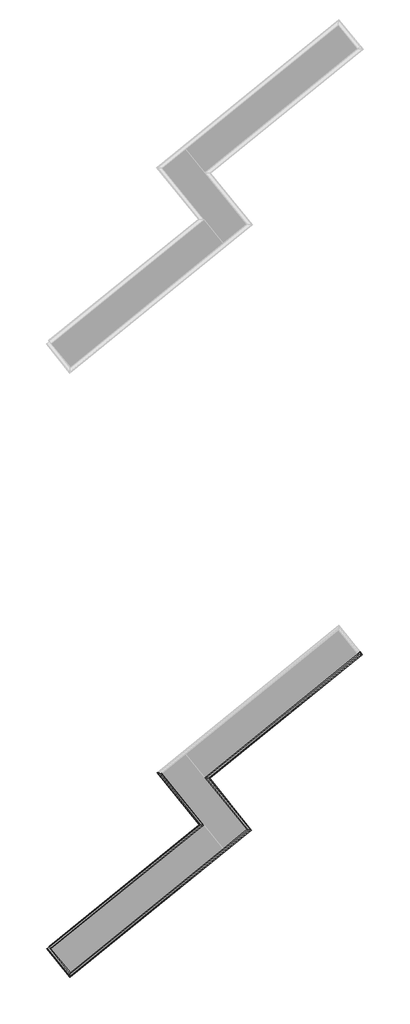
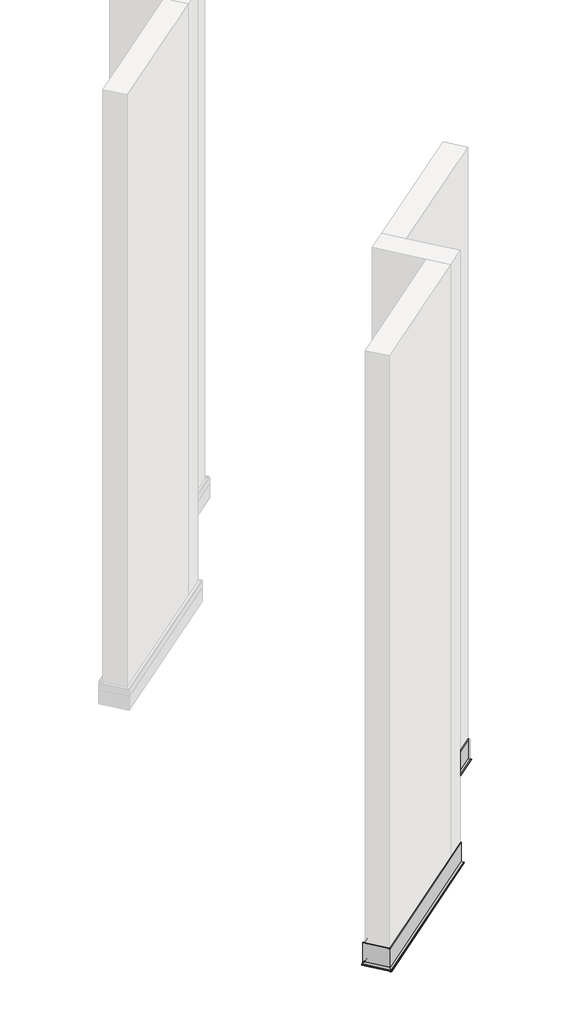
# One storey, part 4 of 21: 5 proxies.
"""IFC4 building model written with IfcOpenShell, lengths in millimetres."""

from ifc_helpers import new_model, si_unit, frame, origin, place, context, project, spatial, polyline, circle_curve, ellipse_curve, element, save
from ifc_brep_helpers import plane_surface, cylinder_surface, revolved_surface, advanced_brep

model = new_model("IFC4")

# Units and contexts
model_context = context("Model", 3, world=origin())
ifc_project = project(units=[si_unit("LENGTHUNIT", "METRE", prefix="MILLI")], contexts=[model_context])

# Site, building, storey
site = spatial("IfcSite", under=ifc_project)
building = spatial("IfcBuilding", under=site)
storey = spatial("IfcBuildingStorey", under=building, Name="Izofleks 2D View", Elevation=0.0)

# Proxies
placement = place(None, origin())
element("IfcBuildingElementProxy", 1, Name="Wall Sweeps", at=placement, inside=storey, context=model_context, shape_type="AdvancedBrep", body=[
    advanced_brep(
    [(10104.8993411, -9175.4264941, 1.1547005), (10103.5267385, -9175.2822278, 2.5773503), (10099.3073394, -9174.8387511, 4.3094011), (10092.2750076, -9174.0996232, 12.9696551), (10092.2750076, -9174.0996232, 98.5), (10088.4775485, -9173.7004942, 97.6), (10089.4620749, -9173.8039721, 95.5), (10089.4620749, -9173.8039721, 6.350853), (10100.7138058, -9174.9865767, 1.7320508), (10101.9593978, -9175.1174937, 0.6666667), (10103.3976168, -9175.2686566, 0.0031865), (10602.4996571, -8757.0514856, 1.1547005), (10601.6698761, -8757.7234289, 0.0031865), (10600.8751852, -8758.366957, 0.6666667), (10600.1869307, -8758.9242945, 1.7320508), (10593.969763, -8763.9588576, 6.350853), (10593.969763, -8763.9588576, 95.5), (10593.4257608, -8764.3993819, 97.6), (10595.5240549, -8762.7002168, 98.5), (10595.5240549, -8762.7002168, 12.9696551), (10599.4097847, -8759.5536149, 4.3094011), (10601.7412226, -8757.6656537, 2.5773503), (10610.044216, -8766.36824, 1.1547005), (10608.5424917, -8766.2104024, 0.0031865), (10607.1042727, -8766.0592395, 0.6666667), (10605.8586807, -8765.9283225, 1.7320508), (10594.6069499, -8764.7457179, 6.350853), (10594.6069499, -8764.7457179, 95.5), (10593.6224234, -8764.64224, 97.6), (10597.4198826, -8765.0413691, 98.5), (10597.4198826, -8765.0413691, 12.9696551), (10604.4522144, -8765.7804969, 4.3094011), (10608.6716134, -8766.2239736, 2.5773503)],
    [
        (0, 1, ellipse_curve(frame((10102.1202721, -9175.1344022, 0.8452995), z_axis=(-0.10452846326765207, -0.9945218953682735, 0.0), x_axis=(0.9945218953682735, -0.1045284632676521, 0.0)), 2.8284271, 2.0)),
        (1, 2),
        (2, 3, ellipse_curve(frame((10106.3396712, -9175.5778789, 12.9696551), z_axis=(0.10452846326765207, 0.9945218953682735, 0.0), x_axis=(-0.9945218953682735, 0.10452846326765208, 0.0)), 14.1421356, 10.0)),
        (3, 4),
        (4, 5, ellipse_curve(frame((10090.1653081, -9173.8778849, 98.5), z_axis=(-0.10452846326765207, -0.9945218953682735, 0.0), x_axis=(0.9945218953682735, -0.1045284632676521, 0.0)), 2.1213203, 1.5)),
        (5, 6, ellipse_curve(frame((10084.5394427, -9173.2865826, 95.5), z_axis=(0.10452846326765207, 0.9945218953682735, 0.0), x_axis=(-0.9945218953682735, 0.1045284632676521, 0.0)), 4.9497475, 3.5)),
        (6, 7),
        (7, 8),
        (8, 9, ellipse_curve(frame((10099.3073394, -9174.8387511, 0.0), z_axis=(0.10452846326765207, 0.9945218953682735, 0.0), x_axis=(-0.9945218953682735, 0.1045284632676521, 0.0)), 2.8284271, 2.0)),
        (9, 10, ellipse_curve(frame((10103.285427, -9175.2568649, 1.0), z_axis=(-0.10452846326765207, -0.9945218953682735, 0.0), x_axis=(0.9945218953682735, -0.1045284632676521, 0.0)), 1.4142136, 1.0)),
        (10, 0, ellipse_curve(frame((10103.5098066, -9175.2804482, 1.0), z_axis=(-0.10452846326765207, -0.9945218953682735, 0.0), x_axis=(0.9945218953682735, -0.1045284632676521, 0.0)), 1.4142136, 1.0)),
        (11, 12, circle_curve(frame((10601.7318669, -8757.6732298, 1.0), z_axis=(-0.6293203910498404, 0.7771459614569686, 0.0), x_axis=(1.0602152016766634e-12, 0.0, -1.0)), 1.0)),
        (12, 13, circle_curve(frame((10601.6078854, -8757.773628, 1.0), z_axis=(-0.6293203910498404, 0.7771459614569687, 0.0), x_axis=(-0.7327002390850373, -0.5933289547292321, -0.33333333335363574)), 1.0)),
        (13, 14, circle_curve(frame((10599.4097847, -8759.5536149, 0.0), z_axis=(0.6293203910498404, -0.7771459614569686, 0.0), x_axis=(0.3885729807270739, 0.3146601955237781, 0.8660254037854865)), 2.0)),
        (14, 15),
        (15, 16),
        (16, 17, circle_curve(frame((10591.2497521, -8766.161479, 95.5), z_axis=(0.6293203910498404, -0.7771459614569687, 0.0), x_axis=(0.6217167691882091, 0.503456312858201, 0.5999999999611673)), 3.5)),
        (17, 18, circle_curve(frame((10594.358336, -8763.6441974, 98.5), z_axis=(-0.6293203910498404, 0.7771459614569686, 0.0), x_axis=(0.7771459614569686, 0.6293203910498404, 0.0)), 1.5)),
        (18, 19),
        (19, 20, circle_curve(frame((10603.2955145, -8756.4070129, 12.9696551), z_axis=(0.6293203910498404, -0.7771459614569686, 0.0), x_axis=(-0.3885729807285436, -0.31466019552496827, -0.8660254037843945)), 10.0)),
        (20, 21),
        (21, 11, circle_curve(frame((10600.9640766, -8758.2949741, 0.8452995), z_axis=(-0.6293203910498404, 0.7771459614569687, 0.0), x_axis=(0.7677902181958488, 0.6217442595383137, 0.15470053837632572)), 2.0)),
        (11, 22),
        (22, 23, ellipse_curve(frame((10608.6546815, -8766.222194, 1.0), z_axis=(0.10452846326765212, 0.9945218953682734, 0.0), x_axis=(-0.9945218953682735, 0.10452846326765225, 0.0)), 1.4142136, 1.0)),
        (23, 12),
        (23, 24, ellipse_curve(frame((10608.4303019, -8766.1986108, 1.0), z_axis=(0.1045284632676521, 0.9945218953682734, 0.0), x_axis=(-0.9945218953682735, 0.10452846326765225, 0.0)), 1.4142136, 1.0)),
        (24, 13),
        (24, 25, ellipse_curve(frame((10604.4522144, -8765.7804969, 0.0), z_axis=(-0.10452846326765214, -0.9945218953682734, 0.0), x_axis=(0.9945218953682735, -0.10452846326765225, 0.0)), 2.8284271, 2.0)),
        (25, 14),
        (25, 26),
        (26, 15),
        (26, 27),
        (27, 16),
        (27, 28, ellipse_curve(frame((10589.6843176, -8764.2283284, 95.5), z_axis=(-0.10452846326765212, -0.9945218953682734, 0.0), x_axis=(0.9945218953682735, -0.10452846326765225, 0.0)), 4.9497475, 3.5)),
        (28, 17),
        (28, 29, ellipse_curve(frame((10595.3101831, -8764.8196307, 98.5), z_axis=(0.10452846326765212, 0.9945218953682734, 0.0), x_axis=(-0.9945218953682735, 0.10452846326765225, 0.0)), 2.1213203, 1.5)),
        (29, 18),
        (29, 30),
        (30, 19),
        (30, 31, ellipse_curve(frame((10611.4845461, -8766.5196248, 12.9696551), z_axis=(-0.1045284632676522, -0.9945218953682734, 0.0), x_axis=(0.9945218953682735, -0.10452846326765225, 0.0)), 14.1421356, 10.0)),
        (31, 20),
        (31, 32),
        (32, 21),
        (32, 22, ellipse_curve(frame((10607.2651471, -8766.076148, 0.8452995), z_axis=(0.1045284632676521, 0.9945218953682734, 0.0), x_axis=(-0.9945218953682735, 0.10452846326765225, 0.0)), 2.8284271, 2.0)),
        (22, 0),
        (10, 23),
        (9, 24),
        (8, 25),
        (7, 26),
        (6, 27),
        (5, 28),
        (4, 29),
        (3, 30),
        (2, 31),
        (1, 32),
    ],
    [
        plane_surface(frame((10088.0380278, -9173.6542987, -304.8), z_axis=(-0.10452846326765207, -0.9945218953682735, 0.0), x_axis=(0.9945218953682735, -0.10452846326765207, 0.0))),
        plane_surface(frame((10593.1829027, -8764.5960445, 0.0), z_axis=(-0.6293203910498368, 0.7771459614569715, 0.0), x_axis=(0.7771459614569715, 0.6293203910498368, 0.0))),
        cylinder_surface(frame((10601.7318669, -8757.6732298, 1.0), z_axis=(-0.6293203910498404, 0.7771459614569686, 0.0), x_axis=(1.0602152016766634e-12, 0.0, -1.0)), 1.0),
        cylinder_surface(frame((10601.6078854, -8757.773628, 1.0), z_axis=(-0.6293203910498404, 0.7771459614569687, 0.0), x_axis=(-0.7327002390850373, -0.5933289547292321, -0.33333333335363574)), 1.0),
        revolved_surface(polyline([(10606.48800108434, -8766.705468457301, 1.732050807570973), (10600.186930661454, -8758.924294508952, 1.732050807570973)]), (10599.4097847, -8759.5536149, 0.0), (0.6293203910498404, -0.7771459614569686, 0.0)),
        plane_surface(frame((10600.1869307, -8758.9242945, 1.7320508), z_axis=(-0.38857298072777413, -0.3146601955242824, -0.866025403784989), x_axis=(0.6293203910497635, -0.7771459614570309, 0.0))),
        plane_surface(frame((10593.969763, -8763.9588576, 6.350853), z_axis=(-0.7771459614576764, -0.6293203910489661, 0.0), x_axis=(0.6293203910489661, -0.7771459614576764, 0.0))),
        revolved_surface(polyline([(10594.062947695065, -8765.18624219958, 97.59999999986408), (10589.657704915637, -8759.746220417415, 97.59999999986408)]), (10591.2497521, -8766.161479, 95.5), (0.6293203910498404, -0.7771459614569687, 0.0)),
        cylinder_surface(frame((10594.358336, -8763.6441974, 98.5), z_axis=(-0.6293203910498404, 0.7771459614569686, 0.0), x_axis=(0.7771459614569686, 0.6293203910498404, 0.0)), 1.5),
        plane_surface(frame((10595.5240549, -8762.7002168, 98.5), z_axis=(0.7771459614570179, 0.6293203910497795, 0.0), x_axis=(0.6293203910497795, -0.7771459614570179, 0.0))),
        revolved_surface(polyline([(10613.892020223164, -8777.437686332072, 4.309401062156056), (10599.409784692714, -8759.55361485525, 4.309401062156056)]), (10603.2955145, -8756.4070129, 12.9696551), (0.6293203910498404, -0.7771459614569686, 0.0)),
        plane_surface(frame((10599.4097847, -8759.5536149, 4.3094011), z_axis=(0.38857298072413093, 0.31466019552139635, 0.8660254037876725), x_axis=(0.6293203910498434, -0.7771459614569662, 0.0))),
        cylinder_surface(frame((10600.9640766, -8758.2949741, 0.8452995), z_axis=(-0.6293203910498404, 0.7771459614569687, 0.0), x_axis=(0.7677902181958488, 0.6217442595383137, 0.15470053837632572)), 2.0),
        cylinder_surface(frame((10600.1057174, -8773.1450087, 1.0), z_axis=(0.7771459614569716, 0.6293203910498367, 0.0), x_axis=(0.0, -1.0602152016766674e-12, -1.0)), 1.0),
        cylinder_surface(frame((10600.0053192, -8773.0210273, 1.0), z_axis=(0.7771459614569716, 0.6293203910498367, 0.0), x_axis=(-0.5933289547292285, 0.7327002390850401, -0.33333333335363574)), 1.0),
        revolved_surface(polyline([(10098.382367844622, -9176.874537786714, 1.732050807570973), (10606.635826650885, -8765.299002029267, 1.732050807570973)]), (10598.2253323, -8770.8229265, 0.0), (-0.7771459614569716, -0.6293203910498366, 0.0)),
        plane_surface(frame((10605.8586807, -8765.9283225, 1.7320508), z_axis=(-0.31466019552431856, 0.3885729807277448, -0.8660254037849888), x_axis=(-0.7771459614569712, -0.629320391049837, 0.0))),
        plane_surface(frame((10594.6069499, -8764.7457179, 6.350853), z_axis=(-0.629320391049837, 0.7771459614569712, 0.0), x_axis=(-0.7771459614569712, -0.629320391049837, 0.0))),
        revolved_surface(polyline([(10083.581528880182, -9177.665212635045, 97.59999999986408), (10594.166425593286, -8764.201715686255, 97.59999999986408)]), (10591.6174682, -8762.6628939, 95.5), (-0.7771459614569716, -0.6293203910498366, 0.0)),
        cylinder_surface(frame((10594.1347498, -8765.7714778, 98.5), z_axis=(0.7771459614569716, 0.6293203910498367, 0.0), x_axis=(0.6293203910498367, -0.7771459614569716, 0.0)), 1.5),
        plane_surface(frame((10597.4198826, -8765.0413691, 98.5), z_axis=(0.629320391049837, -0.7771459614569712, 0.0), x_axis=(-0.7771459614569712, -0.629320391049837, 0.0))),
        revolved_surface(polyline([(10095.421609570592, -9177.985353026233, 4.309401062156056), (10616.10940371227, -8756.340691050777, 4.309401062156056)]), (10601.3719343, -8774.7086563, 12.9696551), (-0.7771459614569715, -0.6293203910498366, 0.0)),
        plane_surface(frame((10604.4522144, -8765.7804969, 4.3094011), z_axis=(0.3146601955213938, -0.388572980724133, 0.8660254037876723), x_axis=(-0.7771459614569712, -0.629320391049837, 0.0))),
        cylinder_surface(frame((10599.4839731, -8772.3772185, 0.8452995), z_axis=(0.7771459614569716, 0.6293203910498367, 0.0), x_axis=(0.62174425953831, -0.7677902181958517, 0.15470053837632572)), 2.0),
    ],
    [
        (0, [[1, 2, 3, 4, 5, 6, 7, 8, 9, 10, 11]]),
        (1, [[12, 13, 14, 15, 16, 17, 18, 19, 20, 21, 22]]),
        (2, [[-12, 23, 24, 25]]),
        (3, [[-13, -25, 26, 27]]),
        (4, [[-14, -27, 28, 29]]),
        (5, [[-15, -29, 30, 31]]),
        (6, [[-16, -31, 32, 33]]),
        (7, [[-17, -33, 34, 35]]),
        (8, [[-18, -35, 36, 37]]),
        (9, [[-19, -37, 38, 39]]),
        (10, [[-20, -39, 40, 41]]),
        (11, [[-21, -41, 42, 43]]),
        (12, [[-22, -43, 44, -23]]),
        (13, [[-24, 45, -11, 46]]),
        (14, [[-26, -46, -10, 47]]),
        (15, [[-28, -47, -9, 48]]),
        (16, [[-30, -48, -8, 49]]),
        (17, [[-32, -49, -7, 50]]),
        (18, [[-34, -50, -6, 51]]),
        (19, [[-36, -51, -5, 52]]),
        (20, [[-38, -52, -4, 53]]),
        (21, [[-40, -53, -3, 54]]),
        (22, [[-42, -54, -2, 55]]),
        (23, [[-44, -55, -1, -45]]),
    ],
),
])
element("IfcBuildingElementProxy", 2, Name="Wall Sweeps", at=placement, inside=storey, context=model_context, shape_type="AdvancedBrep", body=[
    advanced_brep(
    [(10104.8993411, -9175.4264941, 1.1547005), (10103.3976168, -9175.2686566, 0.0031865), (10101.9593978, -9175.1174937, 0.6666667), (10100.7138058, -9174.9865767, 1.7320508), (10089.4620749, -9173.8039721, 6.350853), (10089.4620749, -9173.8039721, 95.5), (10088.4775485, -9173.7004942, 97.6), (10092.2750076, -9174.0996232, 98.5), (10092.2750076, -9174.0996232, 12.9696551), (10099.3073394, -9174.8387511, 4.3094011), (10103.5267385, -9175.2822278, 2.5773503), (10243.3498271, -9346.3986057, 1.1547005), (10241.9772245, -9346.2543393, 2.5773503), (10237.7578254, -9345.8108626, 4.3094011), (10230.7254937, -9345.0717348, 12.9696551), (10230.7254937, -9345.0717348, 98.5), (10226.9280345, -9344.6726057, 97.6), (10227.912561, -9344.7760836, 95.5), (10227.912561, -9344.7760836, 6.350853), (10239.1642918, -9345.9586882, 1.7320508), (10240.4098838, -9346.0896052, 0.6666667), (10241.8481028, -9346.2407681, 0.0031865)],
    [
        (0, 1, ellipse_curve(frame((10103.5098066, -9175.2804482, 1.0), z_axis=(0.10452846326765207, 0.9945218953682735, 0.0), x_axis=(-0.9945218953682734, 0.10452846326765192, 0.0)), 1.4142136, 1.0)),
        (1, 2, ellipse_curve(frame((10103.285427, -9175.2568649, 1.0), z_axis=(0.10452846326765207, 0.9945218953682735, 0.0), x_axis=(-0.9945218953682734, 0.10452846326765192, 0.0)), 1.4142136, 1.0)),
        (2, 3, ellipse_curve(frame((10099.3073394, -9174.8387511, 0.0), z_axis=(-0.10452846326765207, -0.9945218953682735, 0.0), x_axis=(0.9945218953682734, -0.10452846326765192, 0.0)), 2.8284271, 2.0)),
        (3, 4),
        (4, 5),
        (5, 6, ellipse_curve(frame((10084.5394427, -9173.2865826, 95.5), z_axis=(-0.10452846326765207, -0.9945218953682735, 0.0), x_axis=(0.9945218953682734, -0.10452846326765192, 0.0)), 4.9497475, 3.5)),
        (6, 7, ellipse_curve(frame((10090.1653081, -9173.8778849, 98.5), z_axis=(0.10452846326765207, 0.9945218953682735, 0.0), x_axis=(-0.9945218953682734, 0.10452846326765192, 0.0)), 2.1213203, 1.5)),
        (7, 8),
        (8, 9, ellipse_curve(frame((10106.3396712, -9175.5778789, 12.9696551), z_axis=(-0.10452846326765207, -0.9945218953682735, 0.0), x_axis=(0.9945218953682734, -0.10452846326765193, 0.0)), 14.1421356, 10.0)),
        (9, 10),
        (10, 0, ellipse_curve(frame((10102.1202721, -9175.1344022, 0.8452995), z_axis=(0.10452846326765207, 0.9945218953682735, 0.0), x_axis=(-0.9945218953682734, 0.10452846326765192, 0.0)), 2.8284271, 2.0)),
        (11, 12, ellipse_curve(frame((10240.5707581, -9346.1065137, 0.8452995), z_axis=(-0.10452846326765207, -0.9945218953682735, 0.0), x_axis=(-0.9945218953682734, 0.10452846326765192, 0.0)), 2.8284271, 2.0)),
        (12, 13),
        (13, 14, ellipse_curve(frame((10244.7901572, -9346.5499905, 12.9696551), z_axis=(0.10452846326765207, 0.9945218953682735, 0.0), x_axis=(0.9945218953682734, -0.10452846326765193, 0.0)), 14.1421356, 10.0)),
        (14, 15),
        (15, 16, ellipse_curve(frame((10228.6157941, -9344.8499964, 98.5), z_axis=(-0.10452846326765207, -0.9945218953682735, 0.0), x_axis=(-0.9945218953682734, 0.10452846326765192, 0.0)), 2.1213203, 1.5)),
        (16, 17, ellipse_curve(frame((10222.9899287, -9344.2586941, 95.5), z_axis=(0.10452846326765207, 0.9945218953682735, 0.0), x_axis=(0.9945218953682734, -0.10452846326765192, 0.0)), 4.9497475, 3.5)),
        (17, 18),
        (18, 19),
        (19, 20, ellipse_curve(frame((10237.7578254, -9345.8108626, 0.0), z_axis=(0.10452846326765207, 0.9945218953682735, 0.0), x_axis=(0.9945218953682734, -0.10452846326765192, 0.0)), 2.8284271, 2.0)),
        (20, 21, ellipse_curve(frame((10241.735913, -9346.2289765, 1.0), z_axis=(-0.10452846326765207, -0.9945218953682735, 0.0), x_axis=(-0.9945218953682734, 0.10452846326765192, 0.0)), 1.4142136, 1.0)),
        (21, 11, ellipse_curve(frame((10241.9602926, -9346.2525597, 1.0), z_axis=(-0.10452846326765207, -0.9945218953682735, 0.0), x_axis=(-0.9945218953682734, 0.10452846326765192, 0.0)), 1.4142136, 1.0)),
        (0, 11),
        (21, 1),
        (20, 2),
        (19, 3),
        (18, 4),
        (17, 5),
        (16, 6),
        (15, 7),
        (14, 8),
        (13, 9),
        (12, 10),
    ],
    [
        plane_surface(frame((10088.0380278, -9173.6542987, -304.8), z_axis=(0.10452846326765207, 0.9945218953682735, 0.0), x_axis=(0.9945218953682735, -0.10452846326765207, 0.0))),
        plane_surface(frame((10226.4885138, -9344.6264102, 304.8), z_axis=(-0.10452846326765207, -0.9945218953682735, 0.0), x_axis=(-0.9945218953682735, 0.10452846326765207, 0.0))),
        cylinder_surface(frame((10096.5869919, -9166.731484, 1.0), z_axis=(-0.6293203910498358, 0.7771459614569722, 0.0), x_axis=(1.0602152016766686e-12, 0.0, -1.0)), 1.0),
        cylinder_surface(frame((10096.4630105, -9166.8318822, 1.0), z_axis=(-0.629320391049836, 0.7771459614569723, 0.0), x_axis=(-0.7327002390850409, -0.5933289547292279, -0.33333333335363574)), 1.0),
        revolved_surface(polyline([(10239.793612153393, -9346.73583410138, 1.732050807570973), (10098.825844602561, -9172.655138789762, 1.732050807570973)]), (10094.2649098, -9168.6118691, 0.0), (0.629320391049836, -0.7771459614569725, 0.0)),
        plane_surface(frame((10100.7138058, -9174.9865767, 1.7320508), z_axis=(-0.3885729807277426, -0.3146601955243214, -0.8660254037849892), x_axis=(0.6293203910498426, -0.7771459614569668, 0.0))),
        plane_surface(frame((10089.4620749, -9173.8039721, 6.350853), z_axis=(-0.7771459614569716, -0.6293203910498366, 0.0), x_axis=(0.6293203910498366, -0.7771459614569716, 0.0))),
        revolved_surface(polyline([(10227.368558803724, -9345.216607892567, 97.59999999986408), (10084.512830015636, -9168.804474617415, 97.59999999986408)]), (10086.1048772, -9175.2197332, 95.5), (0.6293203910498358, -0.7771459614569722, 0.0)),
        cylinder_surface(frame((10089.213461, -9172.7024516, 98.5), z_axis=(-0.6293203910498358, 0.7771459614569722, 0.0), x_axis=(0.7771459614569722, 0.6293203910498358, 0.0)), 1.5),
        plane_surface(frame((10092.2750076, -9174.0996232, 98.5), z_axis=(0.7771459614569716, 0.6293203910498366, 0.0), x_axis=(0.6293203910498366, -0.7771459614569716, 0.0))),
        revolved_surface(polyline([(10247.197631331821, -9357.46805202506, 4.309401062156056), (10096.160737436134, -9170.953021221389, 4.309401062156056)]), (10098.1506396, -9165.4652671, 12.9696551), (0.6293203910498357, -0.7771459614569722, 0.0)),
        plane_surface(frame((10099.3073394, -9174.8387511, 4.3094011), z_axis=(0.3885729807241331, 0.31466019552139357, 0.8660254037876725), x_axis=(0.6293203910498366, -0.7771459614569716, 0.0))),
        cylinder_surface(frame((10095.8192017, -9167.3532283, 0.8452995), z_axis=(-0.629320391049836, 0.7771459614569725, 0.0), x_axis=(0.7677902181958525, 0.6217442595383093, 0.15470053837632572)), 2.0),
    ],
    [
        (0, [[1, 2, 3, 4, 5, 6, 7, 8, 9, 10, 11]]),
        (1, [[12, 13, 14, 15, 16, 17, 18, 19, 20, 21, 22]]),
        (2, [[-1, 23, -22, 24]]),
        (3, [[-2, -24, -21, 25]]),
        (4, [[-3, -25, -20, 26]]),
        (5, [[-4, -26, -19, 27]]),
        (6, [[-5, -27, -18, 28]]),
        (7, [[-6, -28, -17, 29]]),
        (8, [[-7, -29, -16, 30]]),
        (9, [[-8, -30, -15, 31]]),
        (10, [[-9, -31, -14, 32]]),
        (11, [[-10, -32, -13, 33]]),
        (12, [[-11, -33, -12, -23]]),
    ],
),
])
element("IfcBuildingElementProxy", 3, Name="Wall Sweeps", at=placement, inside=storey, context=model_context, shape_type="AdvancedBrep", body=[
    advanced_brep(
    [(9930.5300792, -9157.0995462, 1.1547005), (9931.9026818, -9157.2438126, 2.5773503), (9936.1220809, -9157.6872893, 4.3094011), (9943.1544126, -9158.4264171, 12.9696551), (9943.1544126, -9158.4264171, 98.5), (9946.9518718, -9158.8255462, 97.6), (9945.9673453, -9158.7220683, 95.5), (9945.9673453, -9158.7220683, 6.350853), (9934.7156145, -9157.5394637, 1.7320508), (9933.4700225, -9157.4085467, 0.6666667), (9932.0318035, -9157.2573838, 0.0031865), (10068.9805652, -9328.0716577, 1.1547005), (10070.4822895, -9328.2294953, 0.0031865), (10071.9205085, -9328.3806582, 0.6666667), (10073.1661005, -9328.5115752, 1.7320508), (10084.4178314, -9329.6941798, 6.350853), (10084.4178314, -9329.6941798, 95.5), (10085.4023578, -9329.7976577, 97.6), (10081.6048986, -9329.3985287, 98.5), (10081.6048986, -9329.3985287, 12.9696551), (10074.5725669, -9328.6594008, 4.3094011), (10070.3531678, -9328.2159241, 2.5773503)],
    [
        (0, 1, ellipse_curve(frame((9933.3091481, -9157.3916381, 0.8452995), z_axis=(0.10452846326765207, 0.9945218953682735, 0.0), x_axis=(-0.9945218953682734, 0.10452846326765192, 0.0)), 2.8284271, 2.0)),
        (1, 2),
        (2, 3, ellipse_curve(frame((9929.0897491, -9156.9481614, 12.9696551), z_axis=(-0.10452846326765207, -0.9945218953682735, 0.0), x_axis=(0.9945218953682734, -0.10452846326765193, 0.0)), 14.1421356, 10.0)),
        (3, 4),
        (4, 5, ellipse_curve(frame((9945.2641121, -9158.6481555, 98.5), z_axis=(0.10452846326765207, 0.9945218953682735, 0.0), x_axis=(-0.9945218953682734, 0.10452846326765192, 0.0)), 2.1213203, 1.5)),
        (5, 6, ellipse_curve(frame((9950.8899776, -9159.2394578, 95.5), z_axis=(-0.10452846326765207, -0.9945218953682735, 0.0), x_axis=(0.9945218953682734, -0.10452846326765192, 0.0)), 4.9497475, 3.5)),
        (6, 7),
        (7, 8),
        (8, 9, ellipse_curve(frame((9936.1220809, -9157.6872893, 0.0), z_axis=(-0.10452846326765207, -0.9945218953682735, 0.0), x_axis=(0.9945218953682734, -0.10452846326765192, 0.0)), 2.8284271, 2.0)),
        (9, 10, ellipse_curve(frame((9932.1439933, -9157.2691754, 1.0), z_axis=(0.10452846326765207, 0.9945218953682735, 0.0), x_axis=(-0.9945218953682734, 0.10452846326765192, 0.0)), 1.4142136, 1.0)),
        (10, 0, ellipse_curve(frame((9931.9196137, -9157.2455922, 1.0), z_axis=(0.10452846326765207, 0.9945218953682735, 0.0), x_axis=(-0.9945218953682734, 0.10452846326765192, 0.0)), 1.4142136, 1.0)),
        (11, 12, ellipse_curve(frame((10070.3700997, -9328.2177037, 1.0), z_axis=(-0.10452846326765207, -0.9945218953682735, 0.0), x_axis=(-0.9945218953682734, 0.10452846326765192, 0.0)), 1.4142136, 1.0)),
        (12, 13, ellipse_curve(frame((10070.5944793, -9328.2412869, 1.0), z_axis=(-0.10452846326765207, -0.9945218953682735, 0.0), x_axis=(-0.9945218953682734, 0.10452846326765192, 0.0)), 1.4142136, 1.0)),
        (13, 14, ellipse_curve(frame((10074.5725669, -9328.6594008, 0.0), z_axis=(0.10452846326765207, 0.9945218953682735, 0.0), x_axis=(0.9945218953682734, -0.10452846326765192, 0.0)), 2.8284271, 2.0)),
        (14, 15),
        (15, 16),
        (16, 17, ellipse_curve(frame((10089.3404636, -9330.2115693, 95.5), z_axis=(0.10452846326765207, 0.9945218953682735, 0.0), x_axis=(0.9945218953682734, -0.10452846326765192, 0.0)), 4.9497475, 3.5)),
        (17, 18, ellipse_curve(frame((10083.7145982, -9329.620267, 98.5), z_axis=(-0.10452846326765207, -0.9945218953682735, 0.0), x_axis=(-0.9945218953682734, 0.10452846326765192, 0.0)), 2.1213203, 1.5)),
        (18, 19),
        (19, 20, ellipse_curve(frame((10067.5402351, -9327.9202729, 12.9696551), z_axis=(0.10452846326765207, 0.9945218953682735, 0.0), x_axis=(0.9945218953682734, -0.10452846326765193, 0.0)), 14.1421356, 10.0)),
        (20, 21),
        (21, 11, ellipse_curve(frame((10071.7596342, -9328.3637497, 0.8452995), z_axis=(-0.10452846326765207, -0.9945218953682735, 0.0), x_axis=(-0.9945218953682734, 0.10452846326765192, 0.0)), 2.8284271, 2.0)),
        (0, 11),
        (21, 1),
        (20, 2),
        (19, 3),
        (18, 4),
        (17, 5),
        (16, 6),
        (15, 7),
        (14, 8),
        (13, 9),
        (12, 10),
    ],
    [
        plane_surface(frame((9947.3913925, -9158.8717417, -304.8), z_axis=(0.10452846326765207, 0.9945218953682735, 0.0), x_axis=(0.9945218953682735, -0.10452846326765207, 0.0))),
        plane_surface(frame((10085.8418785, -9329.8438532, 304.8), z_axis=(-0.10452846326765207, -0.9945218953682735, 0.0), x_axis=(-0.9945218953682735, 0.10452846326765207, 0.0))),
        cylinder_surface(frame((9939.6102186, -9165.1728121, 0.8452995), z_axis=(-0.629320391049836, 0.7771459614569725, 0.0), x_axis=(-0.7677902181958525, -0.6217442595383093, 0.15470053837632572)), 2.0),
        plane_surface(frame((9931.9026818, -9157.2438126, 2.5773503), z_axis=(-0.3885729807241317, -0.3146601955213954, 0.8660254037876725), x_axis=(0.6293203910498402, -0.7771459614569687, 0.0))),
        revolved_surface(polyline([(10077.71916883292, -9332.545130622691, 4.309401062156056), (9926.682274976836, -9146.030099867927, 4.309401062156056)]), (9937.2787807, -9167.0607733, 12.9696551), (0.6293203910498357, -0.7771459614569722, 0.0)),
        plane_surface(frame((9943.1544126, -9158.4264171, 12.9696551), z_axis=(-0.7771459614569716, -0.6293203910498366, 0.0), x_axis=(0.6293203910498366, -0.7771459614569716, 0.0))),
        cylinder_surface(frame((9946.2159592, -9159.8235888, 98.5), z_axis=(-0.6293203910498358, 0.7771459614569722, 0.0), x_axis=(-0.7771459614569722, -0.6293203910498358, 0.0)), 1.5),
        revolved_surface(polyline([(10089.367076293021, -9334.693677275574, 97.59999999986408), (9946.511347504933, -9158.281544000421, 97.59999999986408)]), (9949.3245431, -9157.3063072, 95.5), (0.6293203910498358, -0.7771459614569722, 0.0)),
        plane_surface(frame((9945.9673453, -9158.7220683, 95.5), z_axis=(0.7771459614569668, 0.6293203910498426, 0.0), x_axis=(0.6293203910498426, -0.7771459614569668, 0.0))),
        plane_surface(frame((9945.9673453, -9158.7220683, 6.350853), z_axis=(0.3885729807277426, 0.3146601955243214, -0.8660254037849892), x_axis=(0.6293203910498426, -0.7771459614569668, 0.0))),
        revolved_surface(polyline([(10075.054061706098, -9330.843013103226, 1.732050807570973), (9934.086294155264, -9156.762317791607, 1.732050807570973)]), (9941.1645105, -9163.9141713, 0.0), (0.629320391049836, -0.7771459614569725, 0.0)),
        cylinder_surface(frame((9938.9664098, -9165.6941582, 1.0), z_axis=(-0.629320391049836, 0.7771459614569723, 0.0), x_axis=(0.7327002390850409, 0.5933289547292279, -0.33333333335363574)), 1.0),
        cylinder_surface(frame((9938.8424283, -9165.7945563, 1.0), z_axis=(-0.6293203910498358, 0.7771459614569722, 0.0), x_axis=(-1.0602152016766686e-12, 0.0, -1.0)), 1.0),
    ],
    [
        (0, [[1, 2, 3, 4, 5, 6, 7, 8, 9, 10, 11]]),
        (1, [[12, 13, 14, 15, 16, 17, 18, 19, 20, 21, 22]]),
        (2, [[-1, 23, -22, 24]]),
        (3, [[-2, -24, -21, 25]]),
        (4, [[-3, -25, -20, 26]]),
        (5, [[-4, -26, -19, 27]]),
        (6, [[-5, -27, -18, 28]]),
        (7, [[-6, -28, -17, 29]]),
        (8, [[-7, -29, -16, 30]]),
        (9, [[-8, -30, -15, 31]]),
        (10, [[-9, -31, -14, 32]]),
        (11, [[-10, -32, -13, 33]]),
        (12, [[-11, -33, -12, -23]]),
    ],
),
])
element("IfcBuildingElementProxy", 4, Name="Wall Sweeps", at=placement, inside=storey, context=model_context, shape_type="AdvancedBrep", body=[
    advanced_brep(
    [(10243.3498271, -9346.3986057, 1.1547005), (10241.8481028, -9346.2407681, 0.0031865), (10240.4098838, -9346.0896052, 0.6666667), (10239.1642918, -9345.9586882, 1.7320508), (10227.912561, -9344.7760836, 6.350853), (10227.912561, -9344.7760836, 95.5), (10226.9280345, -9344.6726057, 97.6), (10230.7254937, -9345.0717348, 98.5), (10230.7254937, -9345.0717348, 12.9696551), (10237.7578254, -9345.8108626, 4.3094011), (10241.9772245, -9346.2543393, 2.5773503), (9565.6392059, -9739.3570682, 1.1547005), (9566.3976403, -9738.7429001, 2.5773503), (9568.7290782, -9736.8549389, 4.3094011), (9572.614808, -9733.7083369, 12.9696551), (9572.614808, -9733.7083369, 98.5), (9574.7131021, -9732.0091719, 97.6), (9574.1690999, -9732.4496961, 95.5), (9574.1690999, -9732.4496961, 6.350853), (9567.9519323, -9737.4842593, 1.7320508), (9567.2636777, -9738.0415968, 0.6666667), (9566.4689868, -9738.6851248, 0.0031865), (9641.8568473, -9833.4780168, 1.1547005), (9642.0146848, -9831.9762925, 0.0031865), (9642.1658477, -9830.5380735, 0.6666667), (9642.2967647, -9829.2924815, 1.7320508), (9643.4793693, -9818.0407507, 6.350853), (9643.4793693, -9818.0407507, 95.5), (9643.5828472, -9817.0562242, 97.6), (9643.1837182, -9820.8536834, 98.5), (9643.1837182, -9820.8536834, 12.9696551), (9642.4445903, -9827.8860152, 4.3094011), (9642.0011136, -9832.1054142, 2.5773503)],
    [
        (0, 1, ellipse_curve(frame((10241.9602926, -9346.2525597, 1.0), z_axis=(0.10452846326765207, 0.9945218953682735, 0.0), x_axis=(0.9945218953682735, -0.10452846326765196, 0.0)), 1.4142136, 1.0)),
        (1, 2, ellipse_curve(frame((10241.735913, -9346.2289765, 1.0), z_axis=(0.10452846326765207, 0.9945218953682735, 0.0), x_axis=(0.9945218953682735, -0.1045284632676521, 0.0)), 1.4142136, 1.0)),
        (2, 3, ellipse_curve(frame((10237.7578254, -9345.8108626, 0.0), z_axis=(-0.10452846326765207, -0.9945218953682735, 0.0), x_axis=(-0.9945218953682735, 0.10452846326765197, 0.0)), 2.8284271, 2.0)),
        (3, 4),
        (4, 5),
        (5, 6, ellipse_curve(frame((10222.9899287, -9344.2586941, 95.5), z_axis=(-0.10452846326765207, -0.9945218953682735, 0.0), x_axis=(-0.9945218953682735, 0.10452846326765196, 0.0)), 4.9497475, 3.5)),
        (6, 7, ellipse_curve(frame((10228.6157941, -9344.8499964, 98.5), z_axis=(0.10452846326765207, 0.9945218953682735, 0.0), x_axis=(0.9945218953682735, -0.10452846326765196, 0.0)), 2.1213203, 1.5)),
        (7, 8),
        (8, 9, ellipse_curve(frame((10244.7901572, -9346.5499905, 12.9696551), z_axis=(-0.10452846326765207, -0.9945218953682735, 0.0), x_axis=(-0.9945218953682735, 0.10452846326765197, 0.0)), 14.1421356, 10.0)),
        (9, 10),
        (10, 0, ellipse_curve(frame((10240.5707581, -9346.1065137, 0.8452995), z_axis=(0.10452846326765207, 0.9945218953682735, 0.0), x_axis=(0.9945218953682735, -0.10452846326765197, 0.0)), 2.8284271, 2.0)),
        (11, 12, circle_curve(frame((9567.1747863, -9738.1135797, 0.8452995), z_axis=(-0.629320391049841, 0.7771459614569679, 0.0), x_axis=(-0.7677902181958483, -0.6217442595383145, 0.15470053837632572)), 2.0)),
        (12, 13),
        (13, 14, circle_curve(frame((9564.8433484, -9740.0015408, 12.9696551), z_axis=(0.6293203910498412, -0.777145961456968, 0.0), x_axis=(0.38857298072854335, 0.31466019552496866, -0.8660254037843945)), 10.0)),
        (14, 15),
        (15, 16, circle_curve(frame((9573.780527, -9732.7643563, 98.5), z_axis=(-0.6293203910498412, 0.777145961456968, 0.0), x_axis=(-0.777145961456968, -0.6293203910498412, 0.0)), 1.5)),
        (16, 17, circle_curve(frame((9576.8891108, -9730.2470748, 95.5), z_axis=(0.6293203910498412, -0.7771459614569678, 0.0), x_axis=(-0.6217167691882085, -0.5034563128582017, 0.5999999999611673)), 3.5)),
        (17, 18),
        (18, 19),
        (19, 20, circle_curve(frame((9568.7290782, -9736.8549389, 0.0), z_axis=(0.6293203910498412, -0.777145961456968, 0.0), x_axis=(-0.38857298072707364, -0.3146601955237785, 0.8660254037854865)), 2.0)),
        (20, 21, circle_curve(frame((9566.5309775, -9738.6349257, 1.0), z_axis=(-0.629320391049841, 0.777145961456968, 0.0), x_axis=(0.7327002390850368, 0.5933289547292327, -0.33333333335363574)), 1.0)),
        (21, 11, circle_curve(frame((9566.4069961, -9738.7353239, 1.0), z_axis=(-0.6293203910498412, 0.777145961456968, 0.0), x_axis=(-1.0602152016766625e-12, 0.0, -1.0)), 1.0)),
        (0, 22),
        (22, 23, ellipse_curve(frame((9642.0028932, -9832.0884823, 1.0), z_axis=(0.9945218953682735, -0.10452846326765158, 0.0), x_axis=(0.10452846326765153, 0.9945218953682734, 0.0)), 1.4142136, 1.0)),
        (23, 1),
        (23, 24, ellipse_curve(frame((9642.0264765, -9831.8641027, 1.0), z_axis=(0.9945218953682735, -0.10452846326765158, 0.0), x_axis=(0.10452846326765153, 0.9945218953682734, 0.0)), 1.4142136, 1.0)),
        (24, 2),
        (24, 25, ellipse_curve(frame((9642.4445903, -9827.8860152, 0.0), z_axis=(-0.9945218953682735, 0.10452846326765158, 0.0), x_axis=(-0.10452846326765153, -0.9945218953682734, 0.0)), 2.8284271, 2.0)),
        (25, 3),
        (25, 26),
        (26, 4),
        (26, 27),
        (27, 5),
        (27, 28, ellipse_curve(frame((9643.9967588, -9813.1181185, 95.5), z_axis=(-0.9945218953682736, 0.10452846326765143, 0.0), x_axis=(-0.10452846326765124, -0.9945218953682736, 0.0)), 4.9497475, 3.5)),
        (28, 6),
        (28, 29, ellipse_curve(frame((9643.4054565, -9818.7439839, 98.5), z_axis=(0.9945218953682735, -0.10452846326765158, 0.0), x_axis=(0.10452846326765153, 0.9945218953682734, 0.0)), 2.1213203, 1.5)),
        (29, 7),
        (29, 30),
        (30, 8),
        (30, 31, ellipse_curve(frame((9641.7054625, -9834.9183469, 12.9696551), z_axis=(-0.9945218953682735, 0.10452846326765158, 0.0), x_axis=(-0.10452846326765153, -0.9945218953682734, 0.0)), 14.1421356, 10.0)),
        (31, 9),
        (31, 32),
        (32, 10),
        (32, 22, ellipse_curve(frame((9642.1489392, -9830.6989479, 0.8452995), z_axis=(0.9945218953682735, -0.10452846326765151, 0.0), x_axis=(0.10452846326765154, 0.9945218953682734, 0.0)), 2.8284271, 2.0)),
        (22, 11),
        (21, 23),
        (20, 24),
        (19, 25),
        (18, 26),
        (17, 27),
        (16, 28),
        (15, 29),
        (14, 30),
        (13, 31),
        (12, 32),
    ],
    [
        plane_surface(frame((10226.4885138, -9344.6264102, 304.8), z_axis=(0.10452846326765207, 0.9945218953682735, 0.0), x_axis=(-0.9945218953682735, 0.10452846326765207, 0.0))),
        plane_surface(frame((10118.9581332, -9291.2882355, 0.0), z_axis=(-0.6293203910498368, 0.7771459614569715, 0.0), x_axis=(0.7771459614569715, 0.6293203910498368, 0.0))),
        cylinder_surface(frame((10233.4113285, -9353.1753744, 1.0), z_axis=(0.7771459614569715, 0.6293203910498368, 0.0), x_axis=(0.0, -1.0602152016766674e-12, -1.0)), 1.0),
        cylinder_surface(frame((10233.3109303, -9353.051393, 1.0), z_axis=(0.7771459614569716, 0.6293203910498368, 0.0), x_axis=(-0.5933289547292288, 0.7327002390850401, -0.33333333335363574)), 1.0),
        revolved_surface(polyline([(9641.519618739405, -9829.921801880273, 1.732050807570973), (10239.94143769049, -9345.329367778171, 1.732050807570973)]), (10231.5309434, -9350.8532922, 0.0), (-0.7771459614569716, -0.629320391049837, 0.0)),
        plane_surface(frame((10239.1642918, -9345.9586882, 1.7320508), z_axis=(-0.3146601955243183, 0.3885729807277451, -0.8660254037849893), x_axis=(-0.7771459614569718, -0.6293203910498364, 0.0))),
        plane_surface(frame((10227.912561, -9344.7760836, 6.350853), z_axis=(-0.6293203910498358, 0.7771459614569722, 0.0), x_axis=(-0.7771459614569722, -0.6293203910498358, 0.0))),
        revolved_surface(polyline([(9643.038844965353, -9817.49674851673, 97.59999999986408), (10227.472036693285, -9344.232081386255, 97.59999999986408)]), (10224.9230793, -9342.6932596, 95.5), (-0.7771459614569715, -0.6293203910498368, 0.0)),
        cylinder_surface(frame((10227.4403609, -9345.8018435, 98.5), z_axis=(0.7771459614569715, 0.6293203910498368, 0.0), x_axis=(0.6293203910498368, -0.7771459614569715, 0.0)), 1.5),
        plane_surface(frame((10230.7254937, -9345.0717348, 98.5), z_axis=(0.629320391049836, -0.7771459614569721, 0.0), x_axis=(-0.7771459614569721, -0.629320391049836, 0.0))),
        revolved_surface(polyline([(9630.78740092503, -9837.325820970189, 4.309401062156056), (10249.415014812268, -9336.371056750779, 4.309401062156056)]), (10234.6775454, -9354.739022, 12.9696551), (-0.7771459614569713, -0.6293203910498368, 0.0)),
        plane_surface(frame((10237.7578254, -9345.8108626, 4.3094011), z_axis=(0.3146601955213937, -0.3885729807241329, 0.8660254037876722), x_axis=(-0.7771459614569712, -0.629320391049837, 0.0))),
        cylinder_surface(frame((10232.7895842, -9352.4075842, 0.8452995), z_axis=(0.7771459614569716, 0.629320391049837, 0.0), x_axis=(0.6217442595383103, -0.7677902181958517, 0.15470053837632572)), 2.0),
        cylinder_surface(frame((9635.0800785, -9823.5395182, 1.0), z_axis=(0.6293203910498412, -0.777145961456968, 0.0), x_axis=(-1.0602152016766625e-12, 0.0, -1.0)), 1.0),
        cylinder_surface(frame((9635.20406, -9823.43912, 1.0), z_axis=(0.629320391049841, -0.777145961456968, 0.0), x_axis=(0.7327002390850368, 0.5933289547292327, -0.33333333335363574)), 1.0),
        revolved_surface(polyline([(9567.951932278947, -9737.484259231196, 1.732050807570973), (9642.926085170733, -9830.069627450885, 1.732050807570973)]), (9637.4021607, -9821.6591331, 0.0), (-0.6293203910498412, 0.777145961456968, 0.0)),
        plane_surface(frame((9642.2967647, -9829.2924815, 1.7320508), z_axis=(0.3885729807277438, 0.31466019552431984, -0.866025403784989), x_axis=(-0.6293203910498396, 0.7771459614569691, 0.0))),
        plane_surface(frame((9643.4793693, -9818.0407507, 6.350853), z_axis=(0.7771459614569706, 0.6293203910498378, 0.0), x_axis=(-0.6293203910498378, 0.7771459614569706, 0.0))),
        revolved_surface(polyline([(9574.713102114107, -9732.009171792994, 97.59999999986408), (9644.023371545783, -9817.600226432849, 97.59999999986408)]), (9645.5621933, -9815.051269, 95.5), (-0.6293203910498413, 0.777145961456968, 0.0)),
        cylinder_surface(frame((9642.4536094, -9817.5685506, 98.5), z_axis=(0.6293203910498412, -0.777145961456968, 0.0), x_axis=(-0.777145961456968, -0.6293203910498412, 0.0)), 1.5),
        plane_surface(frame((9643.1837182, -9820.8536834, 98.5), z_axis=(-0.7771459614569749, -0.6293203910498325, 0.0), x_axis=(-0.6293203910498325, 0.7771459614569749, 0.0))),
        revolved_surface(polyline([(9568.729078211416, -9736.854938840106, 4.309401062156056), (9651.884396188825, -9839.543204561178, 4.309401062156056)]), (9633.5164309, -9824.8057351, 12.9696551), (-0.6293203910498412, 0.777145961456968, 0.0)),
        plane_surface(frame((9642.4445903, -9827.8860152, 4.3094011), z_axis=(-0.38857298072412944, -0.3146601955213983, 0.8660254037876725), x_axis=(-0.6293203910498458, 0.7771459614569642, 0.0))),
        cylinder_surface(frame((9635.8478688, -9822.9177739, 0.8452995), z_axis=(0.6293203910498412, -0.7771459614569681, 0.0), x_axis=(-0.7677902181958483, -0.6217442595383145, 0.15470053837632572)), 2.0),
    ],
    [
        (0, [[1, 2, 3, 4, 5, 6, 7, 8, 9, 10, 11]]),
        (1, [[12, 13, 14, 15, 16, 17, 18, 19, 20, 21, 22]]),
        (2, [[-1, 23, 24, 25]]),
        (3, [[-2, -25, 26, 27]]),
        (4, [[-3, -27, 28, 29]]),
        (5, [[-4, -29, 30, 31]]),
        (6, [[-5, -31, 32, 33]]),
        (7, [[-6, -33, 34, 35]]),
        (8, [[-7, -35, 36, 37]]),
        (9, [[-8, -37, 38, 39]]),
        (10, [[-9, -39, 40, 41]]),
        (11, [[-10, -41, 42, 43]]),
        (12, [[-11, -43, 44, -23]]),
        (13, [[-24, 45, -22, 46]]),
        (14, [[-26, -46, -21, 47]]),
        (15, [[-28, -47, -20, 48]]),
        (16, [[-30, -48, -19, 49]]),
        (17, [[-32, -49, -18, 50]]),
        (18, [[-34, -50, -17, 51]]),
        (19, [[-36, -51, -16, 52]]),
        (20, [[-38, -52, -15, 53]]),
        (21, [[-40, -53, -14, 54]]),
        (22, [[-42, -54, -13, 55]]),
        (23, [[-44, -55, -12, -45]]),
    ],
),
])
element("IfcBuildingElementProxy", 5, Name="Wall Sweeps", at=placement, inside=storey, context=model_context, shape_type="AdvancedBrep", body=[
    advanced_brep(
    [(10068.9805652, -9328.0716577, 1.1547005), (10070.3531678, -9328.2159241, 2.5773503), (10074.5725669, -9328.6594008, 4.3094011), (10081.6048986, -9329.3985287, 12.9696551), (10081.6048986, -9329.3985287, 98.5), (10085.4023578, -9329.7976577, 97.6), (10084.4178314, -9329.6941798, 95.5), (10084.4178314, -9329.6941798, 6.350853), (10073.1661005, -9328.5115752, 1.7320508), (10071.9205085, -9328.3806582, 0.6666667), (10070.4822895, -9328.2294953, 0.0031865), (9573.1524447, -9729.585353, 1.1547005), (9573.824388, -9730.4151339, 0.0031865), (9574.467916, -9731.2098249, 0.6666667), (9575.0252536, -9731.8980794, 1.7320508), (9580.0598167, -9738.1152471, 6.350853), (9580.0598167, -9738.1152471, 95.5), (9580.500341, -9738.6592493, 97.6), (9578.8011759, -9736.5609552, 98.5), (9578.8011759, -9736.5609552, 12.9696551), (9575.654574, -9732.6752253, 4.3094011), (9573.7666128, -9730.3437875, 2.5773503)],
    [
        (0, 1, ellipse_curve(frame((10071.7596342, -9328.3637497, 0.8452995), z_axis=(0.10452846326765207, 0.9945218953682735, 0.0), x_axis=(0.9945218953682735, -0.10452846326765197, 0.0)), 2.8284271, 2.0)),
        (1, 2),
        (2, 3, ellipse_curve(frame((10067.5402351, -9327.9202729, 12.9696551), z_axis=(-0.10452846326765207, -0.9945218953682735, 0.0), x_axis=(-0.9945218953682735, 0.10452846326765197, 0.0)), 14.1421356, 10.0)),
        (3, 4),
        (4, 5, ellipse_curve(frame((10083.7145982, -9329.620267, 98.5), z_axis=(0.10452846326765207, 0.9945218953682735, 0.0), x_axis=(0.9945218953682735, -0.10452846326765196, 0.0)), 2.1213203, 1.5)),
        (5, 6, ellipse_curve(frame((10089.3404636, -9330.2115693, 95.5), z_axis=(-0.10452846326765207, -0.9945218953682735, 0.0), x_axis=(-0.9945218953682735, 0.10452846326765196, 0.0)), 4.9497475, 3.5)),
        (6, 7),
        (7, 8),
        (8, 9, ellipse_curve(frame((10074.5725669, -9328.6594008, 0.0), z_axis=(-0.10452846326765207, -0.9945218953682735, 0.0), x_axis=(-0.9945218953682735, 0.10452846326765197, 0.0)), 2.8284271, 2.0)),
        (9, 10, ellipse_curve(frame((10070.5944793, -9328.2412869, 1.0), z_axis=(0.10452846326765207, 0.9945218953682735, 0.0), x_axis=(0.9945218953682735, -0.1045284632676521, 0.0)), 1.4142136, 1.0)),
        (10, 0, ellipse_curve(frame((10070.3700997, -9328.2177037, 1.0), z_axis=(0.10452846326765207, 0.9945218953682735, 0.0), x_axis=(0.9945218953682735, -0.10452846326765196, 0.0)), 1.4142136, 1.0)),
        (11, 12, circle_curve(frame((9573.7741889, -9730.3531432, 1.0), z_axis=(-0.7771459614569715, -0.6293203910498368, 0.0), x_axis=(0.0, 1.0602152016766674e-12, -1.0)), 1.0)),
        (12, 13, circle_curve(frame((9573.8745871, -9730.4771246, 1.0), z_axis=(-0.7771459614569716, -0.6293203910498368, 0.0), x_axis=(0.5933289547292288, -0.7327002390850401, -0.33333333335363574)), 1.0)),
        (13, 14, circle_curve(frame((9575.654574, -9732.6752253, 0.0), z_axis=(0.7771459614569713, 0.6293203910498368, 0.0), x_axis=(-0.31466019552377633, 0.38857298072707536, 0.8660254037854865)), 2.0)),
        (14, 15),
        (15, 16),
        (16, 17, circle_curve(frame((9582.2624381, -9740.8352579, 95.5), z_axis=(0.7771459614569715, 0.6293203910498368, 0.0), x_axis=(-0.5034563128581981, 0.6217167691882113, 0.5999999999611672)), 3.5)),
        (17, 18, circle_curve(frame((9579.7451565, -9737.7266741, 98.5), z_axis=(-0.7771459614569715, -0.6293203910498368, 0.0), x_axis=(-0.6293203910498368, 0.7771459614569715, 0.0)), 1.5)),
        (18, 19),
        (19, 20, circle_curve(frame((9572.507972, -9728.7894955, 12.9696551), z_axis=(0.7771459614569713, 0.6293203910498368, 0.0), x_axis=(0.3146601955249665, -0.38857298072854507, -0.8660254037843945)), 10.0)),
        (20, 21),
        (21, 11, circle_curve(frame((9574.3959332, -9731.1209334, 0.8452995), z_axis=(-0.7771459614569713, -0.6293203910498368, 0.0), x_axis=(-0.6217442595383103, 0.7677902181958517, 0.15470053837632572)), 2.0)),
        (0, 11),
        (21, 1),
        (20, 2),
        (19, 3),
        (18, 4),
        (17, 5),
        (16, 6),
        (15, 7),
        (14, 8),
        (13, 9),
        (12, 10),
    ],
    [
        plane_surface(frame((10085.8418785, -9329.8438532, 304.8), z_axis=(0.10452846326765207, 0.9945218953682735, 0.0), x_axis=(-0.9945218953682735, 0.10452846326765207, 0.0))),
        plane_surface(frame((9580.6970036, -9738.9021074, -99.9284178), z_axis=(-0.7771459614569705, -0.6293203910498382, 0.0), x_axis=(0.6293203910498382, -0.7771459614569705, 0.0))),
        cylinder_surface(frame((10079.5408081, -9322.0626792, 0.8452995), z_axis=(0.7771459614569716, 0.629320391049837, 0.0), x_axis=(-0.6217442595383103, 0.7677902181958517, 0.15470053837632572)), 2.0),
        plane_surface(frame((10070.3531678, -9328.2159241, 2.5773503), z_axis=(-0.31466019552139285, 0.38857298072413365, 0.8660254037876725), x_axis=(-0.7771459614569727, -0.6293203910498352, 0.0))),
        revolved_surface(polyline([(9575.654573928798, -9732.675225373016, 4.309401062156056), (10078.45829669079, -9325.512798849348, 4.309401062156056)]), (10077.6528469, -9319.7312414, 12.9696551), (-0.7771459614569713, -0.6293203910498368, 0.0)),
        plane_surface(frame((10081.6048986, -9329.3985287, 12.9696551), z_axis=(-0.6293203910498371, 0.7771459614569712, 0.0), x_axis=(-0.7771459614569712, -0.6293203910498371, 0.0))),
        cylinder_surface(frame((10084.8900314, -9328.6684199, 98.5), z_axis=(0.7771459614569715, 0.6293203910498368, 0.0), x_axis=(-0.6293203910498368, 0.7771459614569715, 0.0)), 1.5),
        revolved_surface(polyline([(9580.50034097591, -9738.659249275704, 97.59999999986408), (10090.298377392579, -9325.832939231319, 97.59999999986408)]), (10087.407313, -9331.7770038, 95.5), (-0.7771459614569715, -0.6293203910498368, 0.0)),
        plane_surface(frame((10084.4178314, -9329.6941798, 95.5), z_axis=(0.6293203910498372, -0.7771459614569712, 0.0), x_axis=(-0.7771459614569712, -0.6293203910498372, 0.0))),
        plane_surface(frame((10084.4178314, -9329.6941798, 6.350853), z_axis=(0.3146601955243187, -0.38857298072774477, -0.866025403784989), x_axis=(-0.7771459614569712, -0.6293203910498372, 0.0))),
        revolved_surface(polyline([(9575.025253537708, -9731.898079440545, 1.732050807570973), (10075.49753842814, -9326.62361407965, 1.732050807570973)]), (10080.7994489, -9323.6169712, 0.0), (-0.7771459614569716, -0.629320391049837, 0.0)),
        cylinder_surface(frame((10079.019462, -9321.4188704, 1.0), z_axis=(0.7771459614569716, 0.6293203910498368, 0.0), x_axis=(0.5933289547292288, -0.7327002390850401, -0.33333333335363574)), 1.0),
        cylinder_surface(frame((10078.9190639, -9321.294889, 1.0), z_axis=(0.7771459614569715, 0.6293203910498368, 0.0), x_axis=(0.0, 1.0602152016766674e-12, -1.0)), 1.0),
    ],
    [
        (0, [[1, 2, 3, 4, 5, 6, 7, 8, 9, 10, 11]]),
        (1, [[12, 13, 14, 15, 16, 17, 18, 19, 20, 21, 22]]),
        (2, [[-1, 23, -22, 24]]),
        (3, [[-2, -24, -21, 25]]),
        (4, [[-3, -25, -20, 26]]),
        (5, [[-4, -26, -19, 27]]),
        (6, [[-5, -27, -18, 28]]),
        (7, [[-6, -28, -17, 29]]),
        (8, [[-7, -29, -16, 30]]),
        (9, [[-8, -30, -15, 31]]),
        (10, [[-9, -31, -14, 32]]),
        (11, [[-10, -32, -13, 33]]),
        (12, [[-11, -33, -12, -23]]),
    ],
),
])

save(model, "model.ifc")
